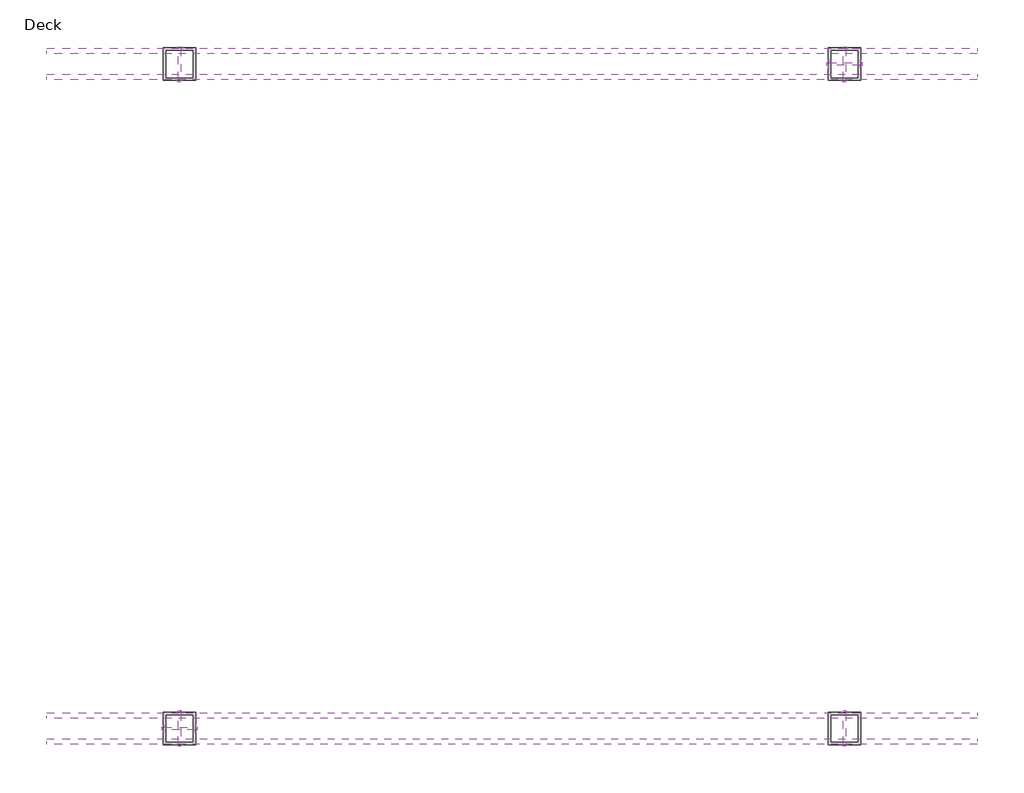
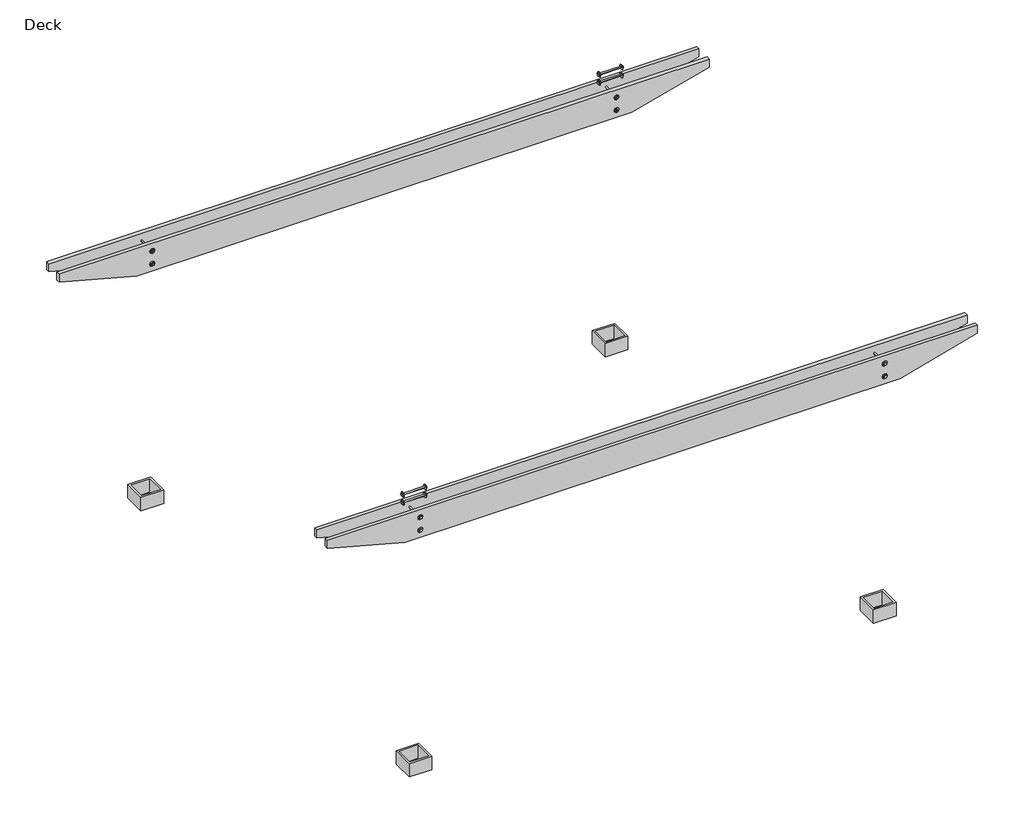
# One storey: 12 proxies, 4 beams, 1 column.
"""IFC4 building model written with IfcOpenShell, lengths in millimetres."""

from ifc_helpers import new_model, si_unit, origin, place, context, project, spatial, transform, mapped, element, save
from components import x12_0e3b684a, x12_f6597e7e, proxy_280ef96e, bottom_trim_bottom_trim_ac09adf2

model = new_model("IFC4")

# Units and contexts
model_context = context("Model", 3, world=origin())
ifc_project = project(units=[si_unit("LENGTHUNIT", "METRE", prefix="MILLI")], contexts=[model_context])

# Site, building, storey
site = spatial("IfcSite", under=ifc_project)
building = spatial("IfcBuilding", under=site)
storey = spatial("IfcBuildingStorey", under=building, Name="Deck", Elevation=0.0)

# Beams
placement = place(None, origin())
x12_shape = x12_0e3b684a(model_context)
element("IfcBeam", 1, ObjectType="Notched Beam : x12", at=placement, inside=storey, context=model_context, shape_type="MappedRepresentation", body=[
    mapped(x12_shape, transform((14157.0468679, 12760.8365582, 2600.325), x_axis=(1.0, 0.0, 0.0), y_axis=(0.0, 1.0, 0.0), z_axis=(0.0, 0.0, 1.0))),
])
element("IfcBeam", 2, ObjectType="Notched Beam : x12", at=placement, inside=storey, context=model_context, shape_type="MappedRepresentation", body=[
    mapped(x12_shape, transform((14157.0468679, 12583.0365582, 2600.325), x_axis=(1.0, 0.0, 0.0), y_axis=(0.0, 1.0, 0.0), z_axis=(0.0, 0.0, 1.0))),
])
x12_2_shape = x12_f6597e7e(model_context)
element("IfcBeam", 3, ObjectType="Notched Beam : x12", at=placement, inside=storey, context=model_context, shape_type="MappedRepresentation", body=[
    mapped(x12_2_shape, transform((14077.2179889, 8188.8365582, 2600.325), x_axis=(1.0, 0.0, 0.0), y_axis=(0.0, 1.0, 0.0), z_axis=(0.0, 0.0, 1.0))),
])
element("IfcBeam", 4, ObjectType="Notched Beam : x12", at=placement, inside=storey, context=model_context, shape_type="MappedRepresentation", body=[
    mapped(x12_2_shape, transform((14077.2179889, 8011.0365582, 2600.325), x_axis=(1.0, 0.0, 0.0), y_axis=(0.0, 1.0, 0.0), z_axis=(0.0, 0.0, 1.0))),
])

# Proxies
proxy_shape = proxy_280ef96e(model_context)
element("IfcBuildingElementProxy", 5, Name="bolt : 5/8\"", ObjectType="bolt : 5/8\"", at=placement, inside=storey, context=model_context, shape_type="MappedRepresentation", body=[
    mapped(proxy_shape, transform((16335.0968679, 12671.9365582, 2877.6868558), x_axis=(0.0, -1.0, 0.0), y_axis=(0.0, 0.0, 1.0), z_axis=(-1.0, 0.0, 0.0))),
])
element("IfcBuildingElementProxy", 6, Name="bolt : 5/8\"", ObjectType="bolt : 5/8\"", at=placement, inside=storey, context=model_context, shape_type="MappedRepresentation", body=[
    mapped(proxy_shape, transform((16335.0968679, 12671.9365582, 2794.1209375), x_axis=(0.0, -1.0, 0.0), y_axis=(0.0, 0.0, 1.0), z_axis=(-1.0, 0.0, 0.0))),
])
element("IfcBuildingElementProxy", 7, Name="bolt : 5/8\"", ObjectType="bolt : 5/8\"", at=placement, inside=storey, context=model_context, shape_type="MappedRepresentation", body=[
    mapped(proxy_shape, transform((11978.9968679, 8099.9365582, 2876.1436), x_axis=(0.0, 1.0, 0.0), y_axis=(0.0, 0.0, 1.0), z_axis=(1.0, 0.0, 0.0))),
])
element("IfcBuildingElementProxy", 8, Name="bolt : 5/8\"", ObjectType="bolt : 5/8\"", at=placement, inside=storey, context=model_context, shape_type="MappedRepresentation", body=[
    mapped(proxy_shape, transform((11978.9968679, 8099.9365582, 2792.9332), x_axis=(0.0, 1.0, 0.0), y_axis=(0.0, 0.0, 1.0), z_axis=(1.0, 0.0, 0.0))),
])
element("IfcBuildingElementProxy", 9, Name="bolt : 5/8\"", ObjectType="bolt : 5/8\"", at=placement, inside=storey, context=model_context, shape_type="MappedRepresentation", body=[
    mapped(proxy_shape, transform((11871.0468679, 7991.9865582, 2667.0), x_axis=(1.0, 0.0, 0.0), y_axis=(0.0, 0.0, 1.0), z_axis=(0.0, -1.0, 0.0))),
])
element("IfcBuildingElementProxy", 10, Name="bolt : 5/8\"", ObjectType="bolt : 5/8\"", at=placement, inside=storey, context=model_context, shape_type="MappedRepresentation", body=[
    mapped(proxy_shape, transform((11871.0468679, 7991.9865582, 2533.65), x_axis=(1.0, 0.0, 0.0), y_axis=(0.0, 0.0, 1.0), z_axis=(0.0, -1.0, 0.0))),
])
element("IfcBuildingElementProxy", 11, Name="bolt : 5/8\"", ObjectType="bolt : 5/8\"", at=placement, inside=storey, context=model_context, shape_type="MappedRepresentation", body=[
    mapped(proxy_shape, transform((16443.0468679, 7991.9865582, 2667.0), x_axis=(1.0, 0.0, 0.0), y_axis=(0.0, 0.0, 1.0), z_axis=(0.0, -1.0, 0.0))),
])
element("IfcBuildingElementProxy", 12, Name="bolt : 5/8\"", ObjectType="bolt : 5/8\"", at=placement, inside=storey, context=model_context, shape_type="MappedRepresentation", body=[
    mapped(proxy_shape, transform((16443.0468679, 7991.9865582, 2533.65), x_axis=(1.0, 0.0, 0.0), y_axis=(0.0, 0.0, 1.0), z_axis=(0.0, -1.0, 0.0))),
])
element("IfcBuildingElementProxy", 13, Name="bolt : 5/8\"", ObjectType="bolt : 5/8\"", at=placement, inside=storey, context=model_context, shape_type="MappedRepresentation", body=[
    mapped(proxy_shape, transform((16443.0468679, 12779.8865582, 2667.0), x_axis=(-1.0, 0.0, 0.0), y_axis=(0.0, 0.0, 1.0), z_axis=(0.0, 1.0, 0.0))),
])
element("IfcBuildingElementProxy", 14, Name="bolt : 5/8\"", ObjectType="bolt : 5/8\"", at=placement, inside=storey, context=model_context, shape_type="MappedRepresentation", body=[
    mapped(proxy_shape, transform((16443.0468679, 12779.8865582, 2533.65), x_axis=(-1.0, 0.0, 0.0), y_axis=(0.0, 0.0, 1.0), z_axis=(0.0, 1.0, 0.0))),
])
element("IfcBuildingElementProxy", 15, Name="bolt : 5/8\"", ObjectType="bolt : 5/8\"", at=placement, inside=storey, context=model_context, shape_type="MappedRepresentation", body=[
    mapped(proxy_shape, transform((11871.0468679, 12779.8865582, 2667.0), x_axis=(-1.0, 0.0, 0.0), y_axis=(0.0, 0.0, 1.0), z_axis=(0.0, 1.0, 0.0))),
])
element("IfcBuildingElementProxy", 16, Name="bolt : 5/8\"", ObjectType="bolt : 5/8\"", at=placement, inside=storey, context=model_context, shape_type="MappedRepresentation", body=[
    mapped(proxy_shape, transform((11871.0468679, 12779.8865582, 2533.65), x_axis=(-1.0, 0.0, 0.0), y_axis=(0.0, 0.0, 1.0), z_axis=(0.0, 1.0, 0.0))),
])

# Column
bottom_trim_bottom_trim_shape = bottom_trim_bottom_trim_ac09adf2(model_context)
element("IfcColumn", 17, ObjectType="Bottom Trim : Bottom Trim", at=placement, inside=storey, context=model_context, shape_type="MappedRepresentation", body=[
    mapped(bottom_trim_bottom_trim_shape, transform((0.0, 0.0, 0.0), x_axis=(1.0, 0.0, 0.0), y_axis=(0.0, 1.0, 0.0), z_axis=(0.0, 0.0, 1.0))),
])

save(model, "model.ifc")
